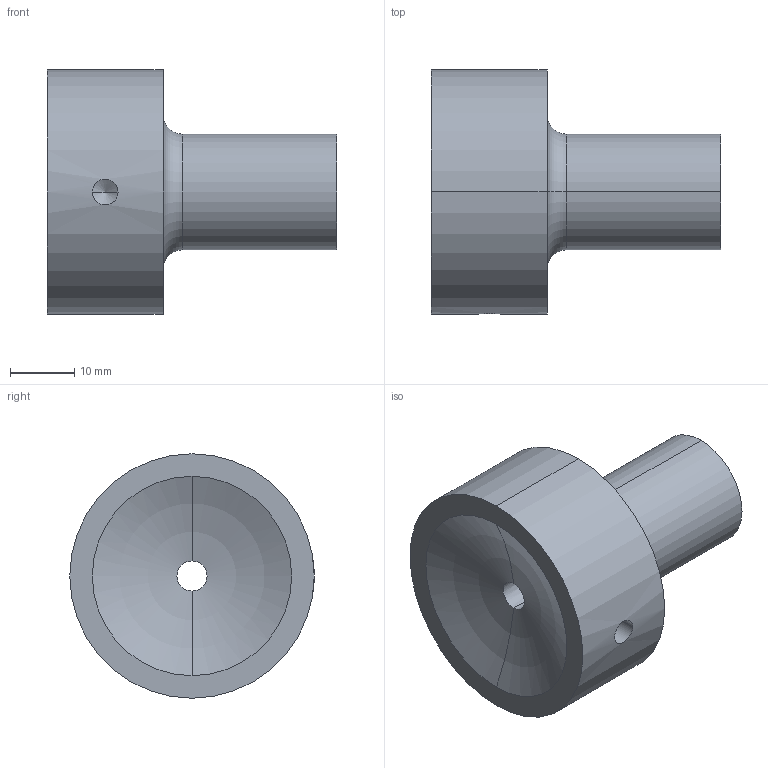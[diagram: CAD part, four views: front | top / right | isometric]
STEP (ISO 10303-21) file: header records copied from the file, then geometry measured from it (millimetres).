
FILE_DESCRIPTION (( 'STEP AP214' ), '1' );
FILE_NAME ('BR51 18x27x4,5x40.STEP', '2019-06-05T15:09:06', ( 'August' ), ( '' ), 'SwSTEP 2.0', 'SolidWorks 2018', '' );
FILE_SCHEMA (( 'AUTOMOTIVE_DESIGN' ));
Length unit declared in the file: millimetre
Products named in the file (1): BR51 18x27x4,5x40
Bounding box: 45 x 38 x 38 mm (x, y, z)
Volume: 24864.7 mm3; surface area: 6670.4 mm2
Topology: 1 solids, 1 shells, 17 faces, 36 edges, 21 vertices
Faces by surface type: cylinder 6, cone 4, torus 4, plane 3
Entity records: 538 total; most frequent: CARTESIAN_POINT 127, DIRECTION 90, ORIENTED_EDGE 68, AXIS2_PLACEMENT_3D 40, EDGE_CURVE 34, CIRCLE 22, VERTEX_POINT 21, EDGE_LOOP 21
